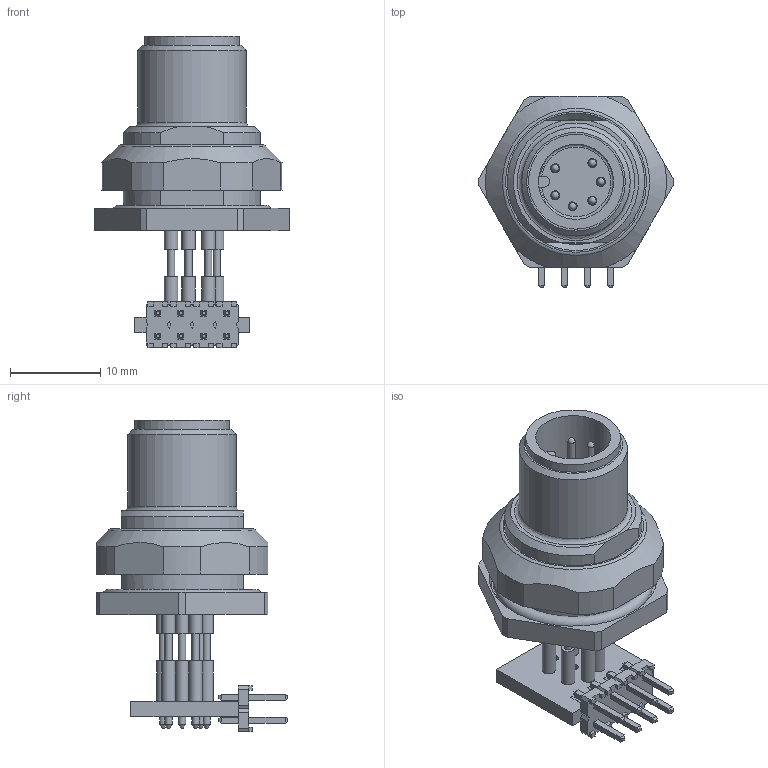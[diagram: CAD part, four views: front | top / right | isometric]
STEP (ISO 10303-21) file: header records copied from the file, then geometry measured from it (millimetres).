
FILE_DESCRIPTION((''),'2;1');
FILE_NAME('C:\TurckZip\WFSD_6-PCBH.stp','2007-05-16T08:52:46',('IKOROL'),(''),'Autodesk Inventor 11','Autodesk Inventor 11','');
FILE_SCHEMA(('AUTOMOTIVE_DESIGN { 1 0 10303 214 1 1 1 1 }'));
Length unit declared in the file: millimetre
Products named in the file (1): Part3
Bounding box: 21.5 x 21.2 x 34.44 mm (x, y, z)
Volume: 3199.7 mm3; surface area: 4798.9 mm2
Topology: 1 solids, 2 shells, 541 faces, 1305 edges, 833 vertices
Faces by surface type: plane 243, bspline 162, cylinder 98, cone 24, torus 8, sphere 6
Full cylindrical faces by diameter (mm): 0.8 x24, 1 x6, 1.5 x18, 1.6 x6, 8 x1, 9 x1, 9.45 x2, 9.6 x1, 9.9 x1, 10 x1, 10.5 x2, 12 x1, 15.75 x1
Entity records: 15236 total; most frequent: CARTESIAN_POINT 3647, ORIENTED_EDGE 2294, DIRECTION 2134, EDGE_CURVE 1147, VECTOR 860, LINE 860, VERTEX_POINT 798, EDGE_LOOP 749
